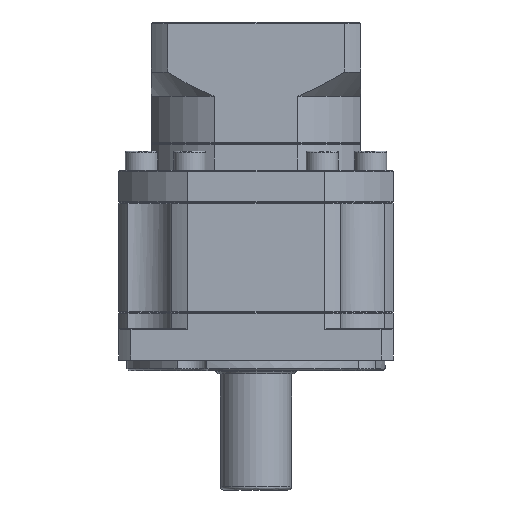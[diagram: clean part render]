
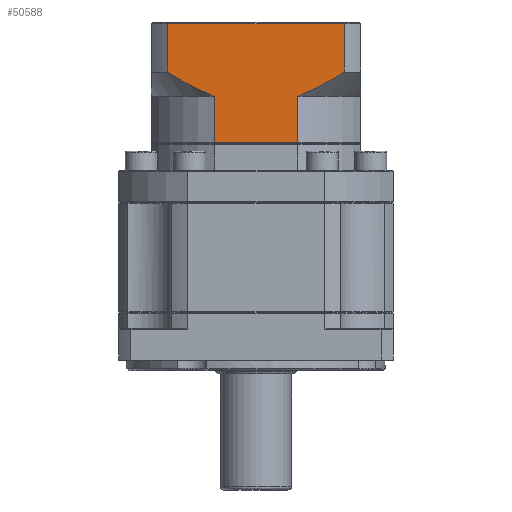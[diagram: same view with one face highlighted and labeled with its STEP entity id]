
A CAD part, front view. The second image highlights one B-rep face of the part: STEP entity #50588.
In plain terms, the highlighted planar face has unit normal (0, -1, 0).
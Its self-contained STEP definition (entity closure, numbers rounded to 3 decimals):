
#170 = EDGE_CURVE ( 'NONE', #6227, #98787, #64908, .T. ) ;
#1190 = CARTESIAN_POINT ( 'NONE',  ( -4.751, -26.477, 65.803 ) ) ;
#2690 = LINE ( 'NONE', #24926, #47389 ) ;
#4727 = CARTESIAN_POINT ( 'NONE',  ( 50.021, -26.477, 68.303 ) ) ;
#5242 = VERTEX_POINT ( 'NONE', #67773 ) ;
#6227 = VERTEX_POINT ( 'NONE', #69106 ) ;
#6686 = DIRECTION ( 'NONE',  ( 0., 0., -1. ) ) ;
#11468 = CARTESIAN_POINT ( 'NONE',  ( 9.644, -26.477, 60.803 ) ) ;
#12108 = EDGE_CURVE ( 'NONE', #66770, #15392, #74515, .T. ) ;
#13122 = ORIENTED_EDGE ( 'NONE', *, *, #108406, .F. ) ;
#13892 = EDGE_CURVE ( 'NONE', #28605, #25390, #79224, .T. ) ;
#15392 = VERTEX_POINT ( 'NONE', #63534 ) ;
#16848 = CARTESIAN_POINT ( 'NONE',  ( 55.135, -26.477, 83.803 ) ) ;
#17039 = AXIS2_PLACEMENT_3D ( 'NONE', #16848, #79342, #25846 ) ;
#17234 = CARTESIAN_POINT ( 'NONE',  ( 50.021, -26.477, 68.303 ) ) ;
#17444 = CARTESIAN_POINT ( 'NONE',  ( 7.102, -26.477, 61.82 ) ) ;
#20473 = DIRECTION ( 'NONE',  ( 0., 0., 1. ) ) ;
#22651 = CARTESIAN_POINT ( 'NONE',  ( 47.731, -26.477, 66.854 ) ) ;
#22829 = B_SPLINE_CURVE_WITH_KNOTS ( 'NONE', 3,
 ( #97522, #106478, #70972, #17444, #79931, #26453, #88883, #35443, #97905, #44415 ),
 .UNSPECIFIED., .F., .F.,
 ( 4, 2, 2, 2, 4 ),
 ( 0.101, 0.104, 0.106, 0.11, 0.118 ),
 .UNSPECIFIED. ) ;
#24165 = ORIENTED_EDGE ( 'NONE', *, *, #90292, .F. ) ;
#24926 = CARTESIAN_POINT ( 'NONE',  ( -4.751, -26.477, 83.303 ) ) ;
#25390 = VERTEX_POINT ( 'NONE', #87171 ) ;
#25462 = PLANE ( 'NONE',  #17039 ) ;
#25846 = DIRECTION ( 'NONE',  ( -1., 0., 0. ) ) ;
#26453 = CARTESIAN_POINT ( 'NONE',  ( 4.625, -26.477, 62.943 ) ) ;
#26982 = VECTOR ( 'NONE', #6686, 1000. ) ;
#28605 = VERTEX_POINT ( 'NONE', #72807 ) ;
#31664 = CARTESIAN_POINT ( 'NONE',  ( 44.21, -26.477, 64.799 ) ) ;
#35350 = FACE_OUTER_BOUND ( 'NONE', #64039, .T. ) ;
#35443 = CARTESIAN_POINT ( 'NONE',  ( -0.168, -26.477, 65.453 ) ) ;
#40669 = CARTESIAN_POINT ( 'NONE',  ( 38.164, -26.477, 61.746 ) ) ;
#44415 = CARTESIAN_POINT ( 'NONE',  ( -4.751, -26.477, 68.303 ) ) ;
#44468 = ORIENTED_EDGE ( 'NONE', *, *, #83977, .T. ) ;
#45043 = DIRECTION ( 'NONE',  ( 0., 0., -1. ) ) ;
#45948 = ORIENTED_EDGE ( 'NONE', *, *, #12108, .F. ) ;
#47389 = VECTOR ( 'NONE', #52254, 1000. ) ;
#50588 = ADVANCED_FACE ( 'NONE', ( #35350 ), #25462, .F. ) ;
#51692 = CARTESIAN_POINT ( 'NONE',  ( 35.625, -26.477, 60.803 ) ) ;
#52254 = DIRECTION ( 'NONE',  ( -1., 0., 0. ) ) ;
#52683 = VECTOR ( 'NONE', #108123, 1000. ) ;
#53019 = VERTEX_POINT ( 'NONE', #106624 ) ;
#55788 = EDGE_CURVE ( 'NONE', #53019, #28605, #22829, .T. ) ;
#58227 = CARTESIAN_POINT ( 'NONE',  ( 48.882, -26.477, 67.57 ) ) ;
#58891 = ORIENTED_EDGE ( 'NONE', *, *, #91747, .T. ) ;
#59820 = CARTESIAN_POINT ( 'NONE',  ( 35.625, -26.477, 60.803 ) ) ;
#63056 = B_SPLINE_CURVE_WITH_KNOTS ( 'NONE', 3,
 ( #4727, #58227, #22651, #85119, #31664, #94111, #40669, #103084 ),
 .UNSPECIFIED., .F., .F.,
 ( 4, 2, 2, 4 ),
 ( 0.059, 0.063, 0.067, 0.075 ),
 .UNSPECIFIED. ) ;
#63534 = CARTESIAN_POINT ( 'NONE',  ( 35.625, -26.477, 46.392 ) ) ;
#64039 = EDGE_LOOP ( 'NONE', ( #96918, #44468, #101801, #68499, #13122, #58891, #45948, #24165 ) ) ;
#64281 = LINE ( 'NONE', #11468, #67065 ) ;
#64908 = LINE ( 'NONE', #71572, #106816 ) ;
#66033 = DIRECTION ( 'NONE',  ( 1., 0., 0. ) ) ;
#66770 = VERTEX_POINT ( 'NONE', #51692 ) ;
#67065 = VECTOR ( 'NONE', #20473, 1000. ) ;
#67773 = CARTESIAN_POINT ( 'NONE',  ( 9.644, -26.477, 46.392 ) ) ;
#68499 = ORIENTED_EDGE ( 'NONE', *, *, #55788, .F. ) ;
#69106 = CARTESIAN_POINT ( 'NONE',  ( 50.021, -26.477, 83.303 ) ) ;
#70972 = CARTESIAN_POINT ( 'NONE',  ( 8.363, -26.477, 61.294 ) ) ;
#71572 = CARTESIAN_POINT ( 'NONE',  ( 50.021, -26.477, 65.803 ) ) ;
#72807 = CARTESIAN_POINT ( 'NONE',  ( -4.751, -26.477, 68.303 ) ) ;
#74515 = LINE ( 'NONE', #59820, #26982 ) ;
#79224 = LINE ( 'NONE', #1190, #52683 ) ;
#79342 = DIRECTION ( 'NONE',  ( 0., 1., 0. ) ) ;
#79931 = CARTESIAN_POINT ( 'NONE',  ( 6.479, -26.477, 62.093 ) ) ;
#83977 = EDGE_CURVE ( 'NONE', #6227, #25390, #2690, .T. ) ;
#83986 = CARTESIAN_POINT ( 'NONE',  ( 55.135, -26.477, 46.392 ) ) ;
#85119 = CARTESIAN_POINT ( 'NONE',  ( 45.395, -26.477, 65.469 ) ) ;
#87171 = CARTESIAN_POINT ( 'NONE',  ( -4.751, -26.477, 83.303 ) ) ;
#88883 = CARTESIAN_POINT ( 'NONE',  ( 3.413, -26.477, 63.548 ) ) ;
#90292 = EDGE_CURVE ( 'NONE', #98787, #66770, #63056, .T. ) ;
#91747 = EDGE_CURVE ( 'NONE', #5242, #15392, #113095, .T. ) ;
#94111 = CARTESIAN_POINT ( 'NONE',  ( 40.616, -26.477, 62.89 ) ) ;
#96918 = ORIENTED_EDGE ( 'NONE', *, *, #170, .F. ) ;
#97522 = CARTESIAN_POINT ( 'NONE',  ( 9.644, -26.477, 60.803 ) ) ;
#97905 = CARTESIAN_POINT ( 'NONE',  ( -2.482, -26.477, 66.841 ) ) ;
#98787 = VERTEX_POINT ( 'NONE', #17234 ) ;
#101801 = ORIENTED_EDGE ( 'NONE', *, *, #13892, .F. ) ;
#103084 = CARTESIAN_POINT ( 'NONE',  ( 35.625, -26.477, 60.803 ) ) ;
#106478 = CARTESIAN_POINT ( 'NONE',  ( 9.002, -26.477, 61.042 ) ) ;
#106624 = CARTESIAN_POINT ( 'NONE',  ( 9.644, -26.477, 60.803 ) ) ;
#106816 = VECTOR ( 'NONE', #45043, 1000. ) ;
#108123 = DIRECTION ( 'NONE',  ( 0., 0., 1. ) ) ;
#108406 = EDGE_CURVE ( 'NONE', #5242, #53019, #64281, .T. ) ;
#110316 = VECTOR ( 'NONE', #66033, 1000. ) ;
#113095 = LINE ( 'NONE', #83986, #110316 ) ;
